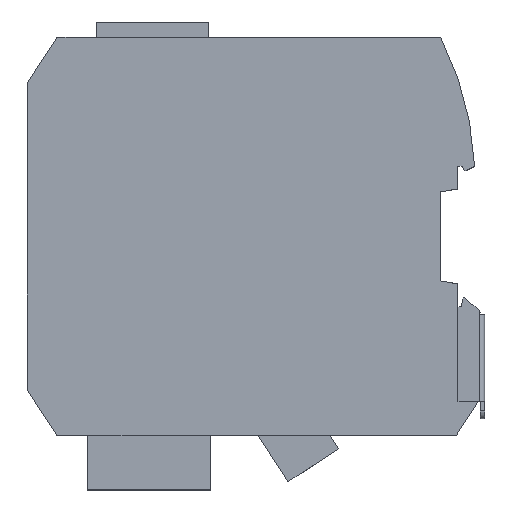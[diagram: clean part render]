
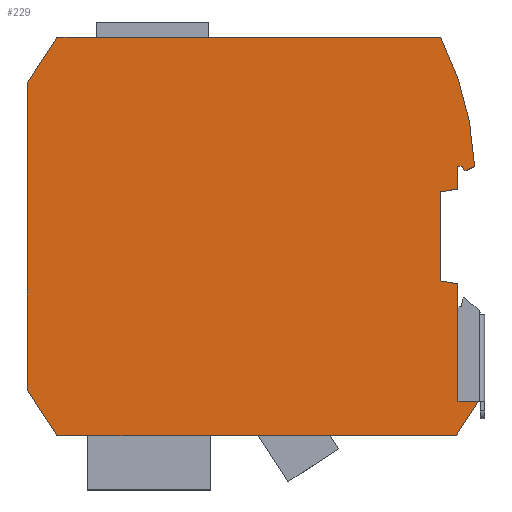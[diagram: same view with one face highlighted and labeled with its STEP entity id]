
A CAD part, top view. The second image highlights one B-rep face of the part: STEP entity #229.
In plain terms, the highlighted planar face has unit normal (0, 0, 1).
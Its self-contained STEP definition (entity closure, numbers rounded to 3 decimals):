
#39 = DIRECTION ( 'NONE',  ( -0.423, 0.906, 0. ) ) ;
#61 = VECTOR ( 'NONE', #39, 1000. ) ;
#92 = LINE ( 'NONE', #3065, #239 ) ;
#117 = EDGE_CURVE ( 'NONE', #538, #2729, #1969, .T. ) ;
#123 = ORIENTED_EDGE ( 'NONE', *, *, #2813, .F. ) ;
#126 = DIRECTION ( 'NONE',  ( 1., 0., 0. ) ) ;
#169 = DIRECTION ( 'NONE',  ( -1., 0., 0. ) ) ;
#172 = VECTOR ( 'NONE', #575, 1000. ) ;
#197 = VERTEX_POINT ( 'NONE', #2049 ) ;
#229 = ADVANCED_FACE ( 'NONE', ( #721 ), #686, .T. ) ;
#236 = AXIS2_PLACEMENT_3D ( 'NONE', #1839, #2351, #2600 ) ;
#239 = VECTOR ( 'NONE', #169, 1000. ) ;
#250 = CARTESIAN_POINT ( 'NONE',  ( 107., 61.317, 8.8 ) ) ;
#269 = DIRECTION ( 'NONE',  ( -0.545, -0.839, 0. ) ) ;
#278 = CARTESIAN_POINT ( 'NONE',  ( 106.525, 0., 8.8 ) ) ;
#294 = CARTESIAN_POINT ( 'NONE',  ( 0., 11.3, 8.8 ) ) ;
#296 = LINE ( 'NONE', #1465, #854 ) ;
#318 = DIRECTION ( 'NONE',  ( 0., 1., 0. ) ) ;
#320 = EDGE_CURVE ( 'NONE', #810, #1533, #600, .T. ) ;
#321 = VECTOR ( 'NONE', #1577, 1000. ) ;
#357 = CARTESIAN_POINT ( 'NONE',  ( 102.65, 0., 8.8 ) ) ;
#369 = CARTESIAN_POINT ( 'NONE',  ( 74.877, -48.679, 8.8 ) ) ;
#379 = DIRECTION ( 'NONE',  ( 0., -1., 0. ) ) ;
#381 = DIRECTION ( 'NONE',  ( 0., 1., 0. ) ) ;
#402 = CARTESIAN_POINT ( 'NONE',  ( -40.059, 26.015, 8.8 ) ) ;
#424 = EDGE_CURVE ( 'NONE', #468, #538, #296, .T. ) ;
#436 = VECTOR ( 'NONE', #670, 1000. ) ;
#468 = VERTEX_POINT ( 'NONE', #1454 ) ;
#477 = VECTOR ( 'NONE', #1805, 1000. ) ;
#493 = EDGE_LOOP ( 'NONE', ( #1824, #524, #793, #1854, #1988, #2592, #823, #2896, #1113, #802, #2275, #123, #2400, #604, #749, #1599, #2499, #1443 ) ) ;
#501 = EDGE_CURVE ( 'NONE', #197, #2873, #795, .T. ) ;
#524 = ORIENTED_EDGE ( 'NONE', *, *, #1802, .T. ) ;
#528 = VERTEX_POINT ( 'NONE', #294 ) ;
#538 = VERTEX_POINT ( 'NONE', #1953 ) ;
#561 = VECTOR ( 'NONE', #1446, 1000. ) ;
#575 = DIRECTION ( 'NONE',  ( 0.985, -0.174, 0. ) ) ;
#600 = LINE ( 'NONE', #2375, #2085 ) ;
#604 = ORIENTED_EDGE ( 'NONE', *, *, #634, .F. ) ;
#614 = VERTEX_POINT ( 'NONE', #2211 ) ;
#634 = EDGE_CURVE ( 'NONE', #528, #2640, #1893, .T. ) ;
#670 = DIRECTION ( 'NONE',  ( -0.985, -0.174, 0. ) ) ;
#671 = VECTOR ( 'NONE', #1335, 1000. ) ;
#686 = PLANE ( 'NONE',  #236 ) ;
#721 = FACE_OUTER_BOUND ( 'NONE', #493, .T. ) ;
#749 = ORIENTED_EDGE ( 'NONE', *, *, #1586, .F. ) ;
#771 = CARTESIAN_POINT ( 'NONE',  ( 108.513, 65.9, 8.8 ) ) ;
#784 = LINE ( 'NONE', #402, #671 ) ;
#793 = ORIENTED_EDGE ( 'NONE', *, *, #1758, .F. ) ;
#795 = LINE ( 'NONE', #1899, #1596 ) ;
#802 = ORIENTED_EDGE ( 'NONE', *, *, #320, .F. ) ;
#810 = VERTEX_POINT ( 'NONE', #2547 ) ;
#815 = LINE ( 'NONE', #832, #2306 ) ;
#823 = ORIENTED_EDGE ( 'NONE', *, *, #424, .F. ) ;
#832 = CARTESIAN_POINT ( 'NONE',  ( 107., 0., 8.8 ) ) ;
#845 = LINE ( 'NONE', #1784, #477 ) ;
#854 = VECTOR ( 'NONE', #3119, 1000. ) ;
#892 = CARTESIAN_POINT ( 'NONE',  ( 109., 65.9, 8.8 ) ) ;
#1014 = VERTEX_POINT ( 'NONE', #1989 ) ;
#1092 = CARTESIAN_POINT ( 'NONE',  ( 7.338, 0., 8.8 ) ) ;
#1113 = ORIENTED_EDGE ( 'NONE', *, *, #2601, .F. ) ;
#1174 = LINE ( 'NONE', #2649, #61 ) ;
#1185 = VECTOR ( 'NONE', #1669, 1000. ) ;
#1193 = VERTEX_POINT ( 'NONE', #278 ) ;
#1249 = VERTEX_POINT ( 'NONE', #771 ) ;
#1250 = LINE ( 'NONE', #369, #321 ) ;
#1252 = LINE ( 'NONE', #2907, #2712 ) ;
#1274 = AXIS2_PLACEMENT_3D ( 'NONE', #1308, #1543, #126 ) ;
#1308 = CARTESIAN_POINT ( 'NONE',  ( 31.25, 63., 8.8 ) ) ;
#1335 = DIRECTION ( 'NONE',  ( 0.545, 0.839, 0. ) ) ;
#1355 = EDGE_CURVE ( 'NONE', #2640, #614, #784, .T. ) ;
#1394 = DIRECTION ( 'NONE',  ( -0.545, 0.839, 0. ) ) ;
#1443 = ORIENTED_EDGE ( 'NONE', *, *, #2467, .F. ) ;
#1446 = DIRECTION ( 'NONE',  ( 1., 0., 0. ) ) ;
#1454 = CARTESIAN_POINT ( 'NONE',  ( 108., 67., 8.8 ) ) ;
#1464 = CARTESIAN_POINT ( 'NONE',  ( 102.65, 38.45, 8.8 ) ) ;
#1465 = CARTESIAN_POINT ( 'NONE',  ( 0., 67., 8.8 ) ) ;
#1491 = CARTESIAN_POINT ( 'NONE',  ( 112.051, 8.5, 8.8 ) ) ;
#1496 = VERTEX_POINT ( 'NONE', #2832 ) ;
#1533 = VERTEX_POINT ( 'NONE', #892 ) ;
#1543 = DIRECTION ( 'NONE',  ( 0., 0., -1. ) ) ;
#1577 = DIRECTION ( 'NONE',  ( -0.545, -0.838, 0. ) ) ;
#1580 = LINE ( 'NONE', #1765, #172 ) ;
#1586 = EDGE_CURVE ( 'NONE', #2515, #528, #2344, .T. ) ;
#1596 = VECTOR ( 'NONE', #2402, 1000. ) ;
#1599 = ORIENTED_EDGE ( 'NONE', *, *, #2455, .F. ) ;
#1627 = VERTEX_POINT ( 'NONE', #2443 ) ;
#1645 = DIRECTION ( 'NONE',  ( -0.906, -0.423, 0. ) ) ;
#1669 = DIRECTION ( 'NONE',  ( 0., -1., 0. ) ) ;
#1717 = CARTESIAN_POINT ( 'NONE',  ( 0., 0., 8.8 ) ) ;
#1758 = EDGE_CURVE ( 'NONE', #2215, #1496, #1580, .T. ) ;
#1765 = CARTESIAN_POINT ( 'NONE',  ( 9.671, 54.845, 8.8 ) ) ;
#1784 = CARTESIAN_POINT ( 'NONE',  ( 0., 0., 8.8 ) ) ;
#1802 = EDGE_CURVE ( 'NONE', #197, #1496, #815, .T. ) ;
#1805 = DIRECTION ( 'NONE',  ( -1., 0., 0. ) ) ;
#1824 = ORIENTED_EDGE ( 'NONE', *, *, #501, .F. ) ;
#1839 = CARTESIAN_POINT ( 'NONE',  ( 0., 0., 8.8 ) ) ;
#1854 = ORIENTED_EDGE ( 'NONE', *, *, #2517, .F. ) ;
#1858 = CARTESIAN_POINT ( 'NONE',  ( 107., 0.731, 8.8 ) ) ;
#1893 = LINE ( 'NONE', #1717, #2764 ) ;
#1899 = CARTESIAN_POINT ( 'NONE',  ( 107., 8.5, 8.8 ) ) ;
#1910 = CARTESIAN_POINT ( 'NONE',  ( 0., 99., 8.8 ) ) ;
#1953 = CARTESIAN_POINT ( 'NONE',  ( 107., 67., 8.8 ) ) ;
#1969 = LINE ( 'NONE', #2401, #1185 ) ;
#1986 = EDGE_CURVE ( 'NONE', #1249, #468, #1174, .T. ) ;
#1988 = ORIENTED_EDGE ( 'NONE', *, *, #2565, .F. ) ;
#1989 = CARTESIAN_POINT ( 'NONE',  ( 102.65, 60.55, 8.8 ) ) ;
#2049 = CARTESIAN_POINT ( 'NONE',  ( 107., 8.5, 8.8 ) ) ;
#2064 = VERTEX_POINT ( 'NONE', #1858 ) ;
#2085 = VECTOR ( 'NONE', #1645, 1000. ) ;
#2200 = EDGE_CURVE ( 'NONE', #2064, #1193, #1252, .T. ) ;
#2211 = CARTESIAN_POINT ( 'NONE',  ( 7.338, 99., 8.8 ) ) ;
#2215 = VERTEX_POINT ( 'NONE', #1464 ) ;
#2225 = VECTOR ( 'NONE', #379, 1000. ) ;
#2275 = ORIENTED_EDGE ( 'NONE', *, *, #3050, .F. ) ;
#2306 = VECTOR ( 'NONE', #381, 1000. ) ;
#2334 = CARTESIAN_POINT ( 'NONE',  ( 5.162, 3.352, 8.8 ) ) ;
#2344 = LINE ( 'NONE', #2334, #2532 ) ;
#2351 = DIRECTION ( 'NONE',  ( 0., 0., 1. ) ) ;
#2373 = CARTESIAN_POINT ( 'NONE',  ( -7.259, 41.17, 8.8 ) ) ;
#2375 = CARTESIAN_POINT ( 'NONE',  ( -5.773, 12.38, 8.8 ) ) ;
#2400 = ORIENTED_EDGE ( 'NONE', *, *, #1355, .F. ) ;
#2401 = CARTESIAN_POINT ( 'NONE',  ( 107., 0., 8.8 ) ) ;
#2402 = DIRECTION ( 'NONE',  ( 1., 0., 0. ) ) ;
#2443 = CARTESIAN_POINT ( 'NONE',  ( 102.692, 99., 8.8 ) ) ;
#2455 = EDGE_CURVE ( 'NONE', #1193, #2515, #845, .T. ) ;
#2467 = EDGE_CURVE ( 'NONE', #2873, #2064, #1250, .T. ) ;
#2488 = LINE ( 'NONE', #2373, #436 ) ;
#2499 = ORIENTED_EDGE ( 'NONE', *, *, #2200, .F. ) ;
#2515 = VERTEX_POINT ( 'NONE', #1092 ) ;
#2517 = EDGE_CURVE ( 'NONE', #1014, #2215, #2526, .T. ) ;
#2526 = LINE ( 'NONE', #357, #2225 ) ;
#2532 = VECTOR ( 'NONE', #1394, 1000. ) ;
#2547 = CARTESIAN_POINT ( 'NONE',  ( 111.155, 66.905, 8.8 ) ) ;
#2565 = EDGE_CURVE ( 'NONE', #2729, #1014, #2488, .T. ) ;
#2592 = ORIENTED_EDGE ( 'NONE', *, *, #117, .F. ) ;
#2599 = CARTESIAN_POINT ( 'NONE',  ( 0., 87.7, 8.8 ) ) ;
#2600 = DIRECTION ( 'NONE',  ( 1., 0., 0. ) ) ;
#2601 = EDGE_CURVE ( 'NONE', #1533, #1249, #92, .T. ) ;
#2640 = VERTEX_POINT ( 'NONE', #2599 ) ;
#2649 = CARTESIAN_POINT ( 'NONE',  ( 114.373, 53.333, 8.8 ) ) ;
#2712 = VECTOR ( 'NONE', #269, 1000. ) ;
#2729 = VERTEX_POINT ( 'NONE', #250 ) ;
#2764 = VECTOR ( 'NONE', #318, 1000. ) ;
#2813 = EDGE_CURVE ( 'NONE', #614, #1627, #2983, .T. ) ;
#2828 = CIRCLE ( 'NONE', #1274, 80. ) ;
#2832 = CARTESIAN_POINT ( 'NONE',  ( 107., 37.683, 8.8 ) ) ;
#2873 = VERTEX_POINT ( 'NONE', #1491 ) ;
#2896 = ORIENTED_EDGE ( 'NONE', *, *, #1986, .F. ) ;
#2907 = CARTESIAN_POINT ( 'NONE',  ( 74.927, -48.658, 8.8 ) ) ;
#2983 = LINE ( 'NONE', #1910, #561 ) ;
#3050 = EDGE_CURVE ( 'NONE', #1627, #810, #2828, .T. ) ;
#3065 = CARTESIAN_POINT ( 'NONE',  ( 0., 65.9, 8.8 ) ) ;
#3119 = DIRECTION ( 'NONE',  ( -1., 0., 0. ) ) ;
